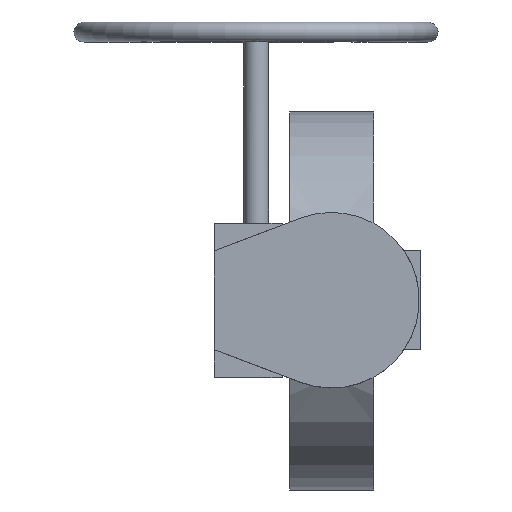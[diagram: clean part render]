
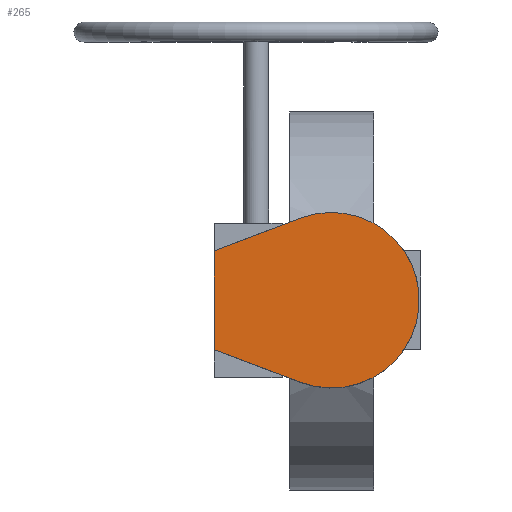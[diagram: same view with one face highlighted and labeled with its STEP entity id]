
A CAD part, top view. The second image highlights one B-rep face of the part: STEP entity #265.
In plain terms, the highlighted planar face has unit normal (0, 0, 1).
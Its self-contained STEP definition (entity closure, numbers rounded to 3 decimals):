
#265=ADVANCED_FACE('',(#7668),#7670,.T.);
#7668=FACE_BOUND('',#7669,.T.);
#7669=EDGE_LOOP('',(#13510,#13511,#13512,#13513));
#7670=PLANE('',#7671);
#7671=AXIS2_PLACEMENT_3D('',#7672,#7673,#7674);
#7672=CARTESIAN_POINT('',(0.,0.,349.));
#7673=DIRECTION('',(0.,0.,1.));
#7674=DIRECTION('',(0.,1.,0.));
#13510=ORIENTED_EDGE('',*,*,#18231,.T.);
#13511=ORIENTED_EDGE('',*,*,#18227,.T.);
#13512=ORIENTED_EDGE('',*,*,#18220,.T.);
#13513=ORIENTED_EDGE('',*,*,#18215,.T.);
#18215=EDGE_CURVE('',#20666,#20664,#20667,.T.);
#18220=EDGE_CURVE('',#20674,#20666,#20675,.T.);
#18227=EDGE_CURVE('',#20687,#20674,#20688,.T.);
#18231=EDGE_CURVE('',#20664,#20687,#20693,.T.);
#20664=VERTEX_POINT('',#24738);
#20666=VERTEX_POINT('',#24742);
#20667=LINE('',#24743,#24744);
#20674=VERTEX_POINT('',#24760);
#20675=LINE('',#24761,#24762);
#20687=VERTEX_POINT('',#24787);
#20688=LINE('',#24788,#24789);
#20693=CIRCLE('',#24801,71.);
#24738=CARTESIAN_POINT('',(-25.099,-66.416,349.));
#24742=CARTESIAN_POINT('',(-95.,-40.,349.));
#24743=CARTESIAN_POINT('',(-95.,-40.,349.));
#24744=VECTOR('',#24745,1.);
#24745=DIRECTION('',(0.935,-0.354,0.));
#24760=CARTESIAN_POINT('',(-95.,40.,349.));
#24761=CARTESIAN_POINT('',(-95.,40.,349.));
#24762=VECTOR('',#24763,1.);
#24763=DIRECTION('',(0.,-1.,0.));
#24787=CARTESIAN_POINT('',(-25.099,66.416,349.));
#24788=CARTESIAN_POINT('',(-25.099,66.416,349.));
#24789=VECTOR('',#24790,1.);
#24790=DIRECTION('',(-0.935,-0.354,0.));
#24801=AXIS2_PLACEMENT_3D('',#24802,#24803,#24804);
#24802=CARTESIAN_POINT('',(0.,0.,349.));
#24803=DIRECTION('',(0.,0.,1.));
#24804=DIRECTION('',(-0.354,-0.935,0.));
